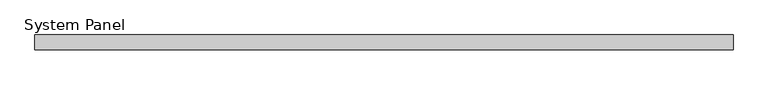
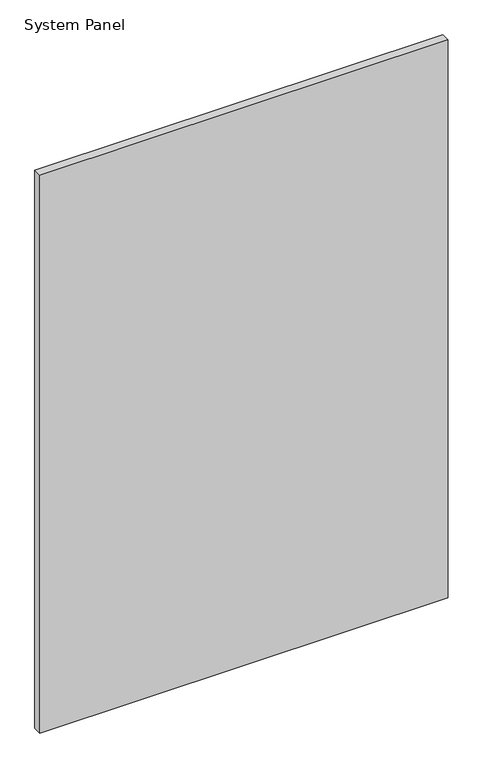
"""IFC4 building model written with IfcOpenShell, lengths in millimetres: plate geometry, System Panel : Panel_Glazed_Generic Showcase_30mm."""

from ifc_helpers import new_model, si_unit, origin, origin_with_axes, place, context, project, spatial, polyline, outline, extrude, source, transform, mapped, element, save


def system_panel_27d48a78(model_context):
    return source(origin(), model_context, "Body", "SweptSolid", [
        extrude(outline(polyline([(709.726735, 0.0), (-709.726735, 0.0), (-709.726735, 30.0), (709.726735, 30.0), (709.726735, 0.0)])), origin_with_axes(), (0.0, 0.0, 1.0), 2050.0),
    ])


if __name__ == "__main__":
    model = new_model("IFC4")
    model_context = context("Model", 3, world=origin())
    ifc_project = project(units=[si_unit("LENGTHUNIT", "METRE", prefix="MILLI")], contexts=[model_context])
    site = spatial("IfcSite", under=ifc_project)
    building = spatial("IfcBuilding", under=site)
    placement = place(None, origin())
    system_panel_shape = system_panel_27d48a78(model_context)
    element("IfcPlate", 1, ObjectType="System Panel : Panel_Glazed_Generic Showcase_30mm", at=placement, inside=building, context=model_context, shape_type="MappedRepresentation", body=[
        mapped(system_panel_shape, transform((0.0, 0.0, 0.0), x_axis=(1.0, 0.0, 0.0), y_axis=(0.0, 1.0, 0.0), z_axis=(0.0, 0.0, 1.0))),
    ])
    save(model, "model.ifc")
